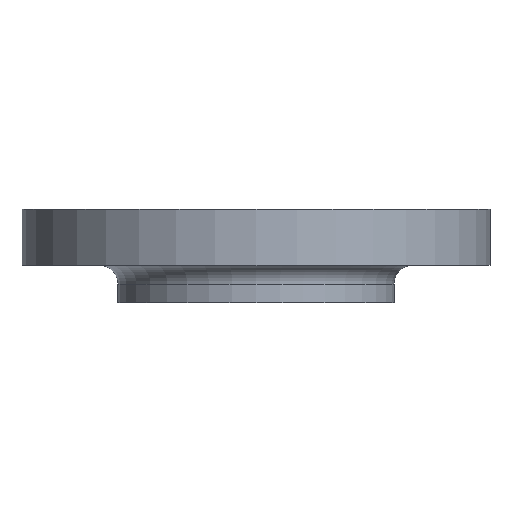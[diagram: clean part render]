
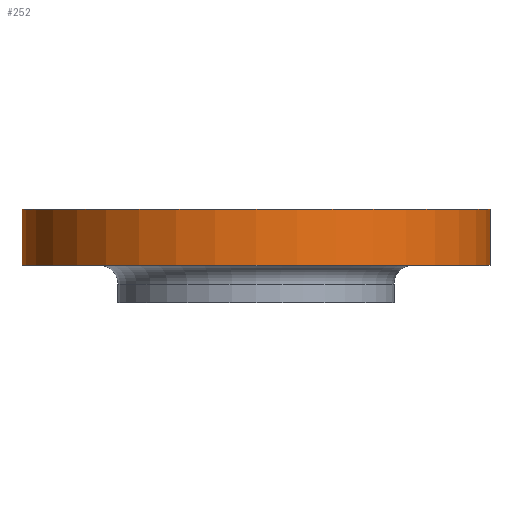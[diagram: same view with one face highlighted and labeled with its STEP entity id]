
A CAD part, front view. The second image highlights one B-rep face of the part: STEP entity #252.
In plain terms, the highlighted cylindrical face has radius 100 mm (diameter 200 mm), a partial arc.
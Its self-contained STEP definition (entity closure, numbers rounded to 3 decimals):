
#10 = AXIS2_PLACEMENT_3D ( 'NONE', #292, #291, #290 ) ;
#37 = CIRCLE ( 'NONE', #10, 100. ) ;
#80 = EDGE_CURVE ( 'NONE', #789, #791, #703, .T. ) ;
#93 = CIRCLE ( 'NONE', #313, 100. ) ;
#212 = CARTESIAN_POINT ( 'NONE',  ( -100., 0., -24. ) ) ;
#217 = CARTESIAN_POINT ( 'NONE',  ( 100., 0., 0. ) ) ;
#218 = VECTOR ( 'NONE', #338, 1000. ) ;
#220 = CARTESIAN_POINT ( 'NONE',  ( 100., 0., -24. ) ) ;
#222 = CARTESIAN_POINT ( 'NONE',  ( -100., 0., 0. ) ) ;
#252 = ADVANCED_FACE ( 'NONE', ( #510 ), #513, .T. ) ;
#290 = DIRECTION ( 'NONE',  ( 1., 0., 0. ) ) ;
#291 = DIRECTION ( 'NONE',  ( 0., 0., 1. ) ) ;
#292 = CARTESIAN_POINT ( 'NONE',  ( 0., 0., 0. ) ) ;
#313 = AXIS2_PLACEMENT_3D ( 'NONE', #705, #529, #530 ) ;
#338 = DIRECTION ( 'NONE',  ( 0., 0., 1. ) ) ;
#339 = EDGE_CURVE ( 'NONE', #794, #789, #93, .T. ) ;
#340 = CARTESIAN_POINT ( 'NONE',  ( -100., 0., -68. ) ) ;
#341 = LINE ( 'NONE', #340, #218 ) ;
#384 = VECTOR ( 'NONE', #697, 1000. ) ;
#501 = DIRECTION ( 'NONE',  ( 0., 0., 1. ) ) ;
#503 = CARTESIAN_POINT ( 'NONE',  ( 0., 0., -68. ) ) ;
#504 = DIRECTION ( 'NONE',  ( 1., 0., 0. ) ) ;
#510 = FACE_OUTER_BOUND ( 'NONE', #771, .T. ) ;
#513 = CYLINDRICAL_SURFACE ( 'NONE', #762, 100. ) ;
#529 = DIRECTION ( 'NONE',  ( 0., 0., 1. ) ) ;
#530 = DIRECTION ( 'NONE',  ( 1., 0., 0. ) ) ;
#538 = EDGE_CURVE ( 'NONE', #794, #787, #341, .T. ) ;
#689 = EDGE_CURVE ( 'NONE', #787, #791, #37, .T. ) ;
#695 = CARTESIAN_POINT ( 'NONE',  ( 100., 0., -68. ) ) ;
#697 = DIRECTION ( 'NONE',  ( 0., 0., 1. ) ) ;
#703 = LINE ( 'NONE', #695, #384 ) ;
#705 = CARTESIAN_POINT ( 'NONE',  ( 0., 0., -24. ) ) ;
#762 = AXIS2_PLACEMENT_3D ( 'NONE', #503, #501, #504 ) ;
#771 = EDGE_LOOP ( 'NONE', ( #892, #893, #894, #895 ) ) ;
#787 = VERTEX_POINT ( 'NONE', #222 ) ;
#789 = VERTEX_POINT ( 'NONE', #220 ) ;
#791 = VERTEX_POINT ( 'NONE', #217 ) ;
#794 = VERTEX_POINT ( 'NONE', #212 ) ;
#892 = ORIENTED_EDGE ( 'NONE', *, *, #538, .F. ) ;
#893 = ORIENTED_EDGE ( 'NONE', *, *, #339, .T. ) ;
#894 = ORIENTED_EDGE ( 'NONE', *, *, #80, .T. ) ;
#895 = ORIENTED_EDGE ( 'NONE', *, *, #689, .F. ) ;
